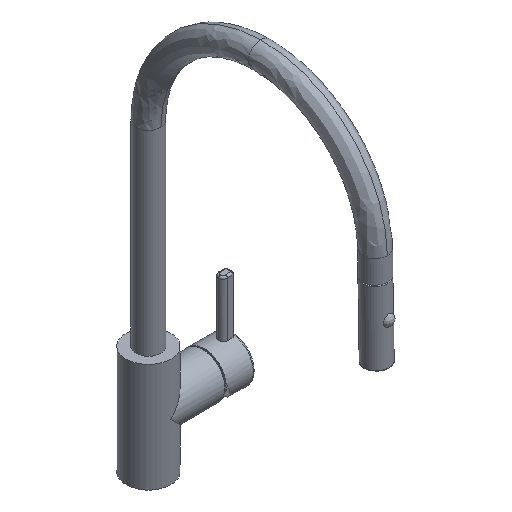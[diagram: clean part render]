
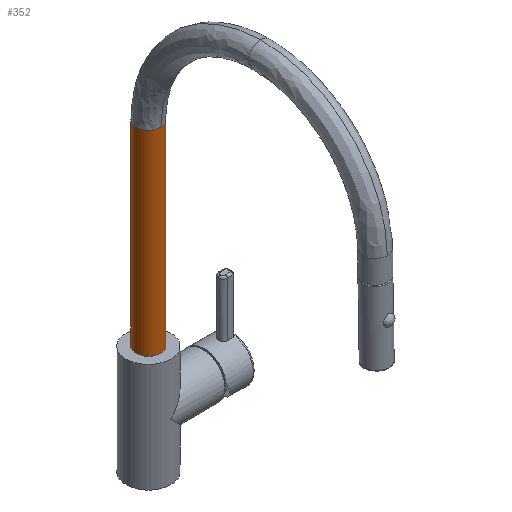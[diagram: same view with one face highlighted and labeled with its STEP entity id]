
A CAD part, isometric view. The second image highlights one B-rep face of the part: STEP entity #352.
In plain terms, the highlighted cylindrical face has radius 12.5 mm (diameter 25 mm), a full revolution.
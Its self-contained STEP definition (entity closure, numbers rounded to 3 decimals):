
#36=TRIMMED_CURVE($,#87,(#6700),(#6701),.T.,.CARTESIAN.);
#37=TRIMMED_CURVE($,#88,(#6703),(#6704),.T.,.CARTESIAN.);
#38=TRIMMED_CURVE($,#89,(#6706),(#6707),.T.,.CARTESIAN.);
#87=CIRCLE('',#3796,12.5);
#88=CIRCLE('',#3797,12.5);
#89=CIRCLE('',#3798,12.5);
#92=CIRCLE('',#3801,12.5);
#127=CYLINDRICAL_SURFACE('',#3768,12.5);
#352=ADVANCED_FACE('',(#570),#127,.T.);
#570=FACE_OUTER_BOUND('',#785,.T.);
#785=EDGE_LOOP('',(#1747,#1748,#1749,#1750,#1751,#1752));
#1747=ORIENTED_EDGE('',*,*,#2351,.T.);
#1748=ORIENTED_EDGE('',*,*,#2352,.T.);
#1749=ORIENTED_EDGE('',*,*,#2346,.F.);
#1750=ORIENTED_EDGE('',*,*,#2348,.F.);
#1751=ORIENTED_EDGE('',*,*,#2347,.F.);
#1752=ORIENTED_EDGE('',*,*,#2352,.F.);
#2346=EDGE_CURVE('',#3196,#3197,#36,.T.);
#2347=EDGE_CURVE('',#3197,#3198,#37,.T.);
#2348=EDGE_CURVE('',#3198,#3196,#38,.T.);
#2351=EDGE_CURVE('',#3199,#3199,#92,.T.);
#2352=EDGE_CURVE('',#3199,#3197,#2862,.T.);
#2862=B_SPLINE_CURVE_WITH_KNOTS('',1,(#6715,#6716),.UNSPECIFIED.,.F.,.F.,
(2,2),(19.82,216.82),.UNSPECIFIED.);
#3196=VERTEX_POINT('',#6629);
#3197=VERTEX_POINT('',#6630);
#3198=VERTEX_POINT('',#6631);
#3199=VERTEX_POINT('',#6632);
#3768=AXIS2_PLACEMENT_3D('',#6124,#4027,$);
#3796=AXIS2_PLACEMENT_3D($,#6699,#4063,#4064);
#3797=AXIS2_PLACEMENT_3D($,#6702,#4065,#4066);
#3798=AXIS2_PLACEMENT_3D($,#6705,#4067,#4068);
#3801=AXIS2_PLACEMENT_3D($,#6714,#4073,#4074);
#4027=DIRECTION('',(0.,0.,1.));
#4063=DIRECTION('',(0.,0.,1.));
#4064=DIRECTION('',(0.,-1.,0.));
#4065=DIRECTION('',(0.,0.,1.));
#4066=DIRECTION('',(1.,0.,0.));
#4067=DIRECTION('',(0.,0.,1.));
#4068=DIRECTION('',(0.,1.,0.));
#4073=DIRECTION('',(0.,0.,1.));
#4074=DIRECTION('',(1.,0.,0.));
#6124=CARTESIAN_POINT('',(0.,0.,208.));
#6629=CARTESIAN_POINT('',(0.,-12.5,306.5));
#6630=CARTESIAN_POINT('',(12.5,0.,306.5));
#6631=CARTESIAN_POINT('',(0.,12.5,306.5));
#6632=CARTESIAN_POINT('',(12.5,0.,109.5));
#6699=CARTESIAN_POINT('',(0.,0.,306.5));
#6700=CARTESIAN_POINT('',(0.,-12.5,306.5));
#6701=CARTESIAN_POINT('',(12.5,0.,306.5));
#6702=CARTESIAN_POINT('',(0.,0.,306.5));
#6703=CARTESIAN_POINT('',(12.5,0.,306.5));
#6704=CARTESIAN_POINT('',(0.,12.5,306.5));
#6705=CARTESIAN_POINT('',(0.,0.,306.5));
#6706=CARTESIAN_POINT('',(0.,12.5,306.5));
#6707=CARTESIAN_POINT('',(0.,-12.5,306.5));
#6714=CARTESIAN_POINT('',(0.,0.,109.5));
#6715=CARTESIAN_POINT('',(12.5,0.,109.5));
#6716=CARTESIAN_POINT('',(12.5,0.,306.5));
